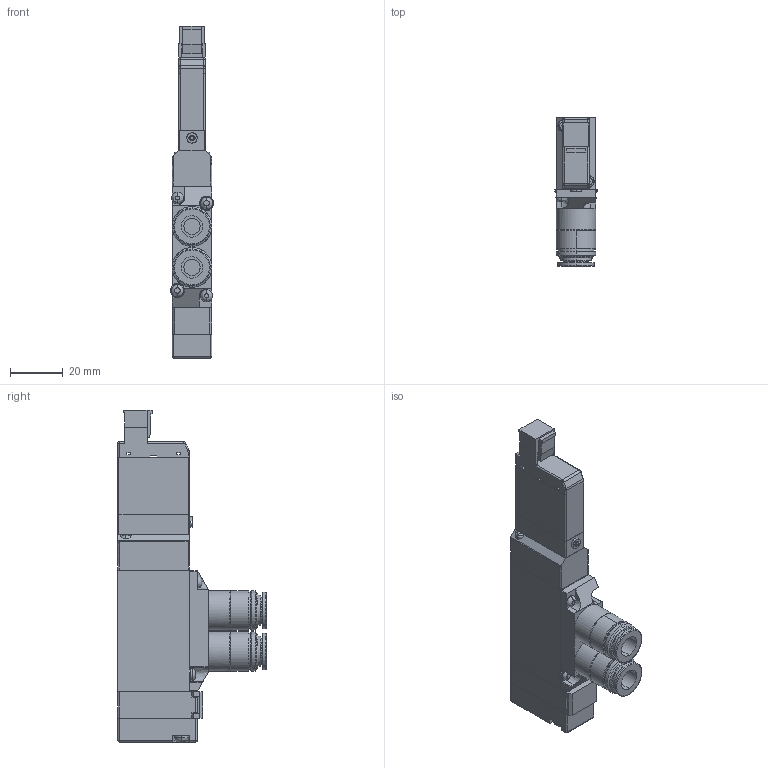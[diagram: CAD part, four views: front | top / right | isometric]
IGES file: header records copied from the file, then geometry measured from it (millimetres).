
Start section: ------------------------------------------------------------------------
Global section: file name: D:\ICADMX\tmp\trans3d_spg\CVICAD02.7120.F15T1-FJ-PS_16874.igs; native system: spGate; preprocessor: ver12.6.6; author: Unknown; organization: Unknown; date: 210712.184917; units: millimetre
Bounding box: 16.2 x 56 x 125.5 mm (x, y, z)
Volume: 51789.7 mm3; surface area: 21248.5 mm2
Topology: 7 solids, 7 shells, 464 faces, 1174 edges, 743 vertices
Faces by surface type: bspline 464
